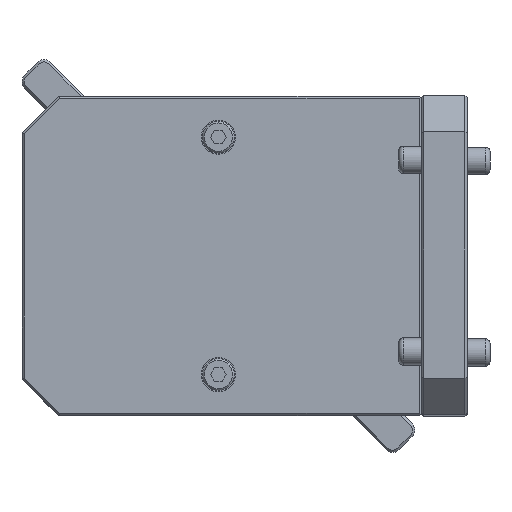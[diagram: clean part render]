
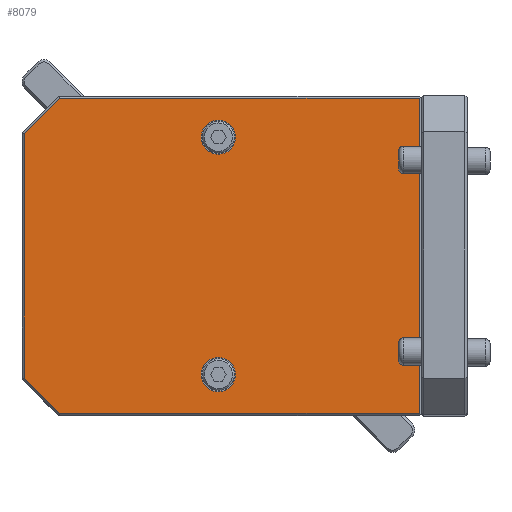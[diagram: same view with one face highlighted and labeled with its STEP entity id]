
A CAD part, top view. The second image highlights one B-rep face of the part: STEP entity #8079.
In plain terms, the highlighted planar face has unit normal (0, 0, 1).
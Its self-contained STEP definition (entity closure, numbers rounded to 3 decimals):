
#4339=PLANE('',#20849);
#5361=LINE('',#29342,#6851);
#5362=LINE('',#29345,#6852);
#5363=LINE('',#29347,#6853);
#5364=LINE('',#29349,#6854);
#5365=LINE('',#29351,#6855);
#5366=LINE('',#29353,#6856);
#6851=VECTOR('',#23988,1.);
#6852=VECTOR('',#23989,1.);
#6853=VECTOR('',#23990,1.);
#6854=VECTOR('',#23991,1.);
#6855=VECTOR('',#23992,1.);
#6856=VECTOR('',#23993,1.);
#8079=ADVANCED_FACE('',(#9237,#9238,#9239),#4339,.T.);
#9237=FACE_BOUND('',#10014,.T.);
#9238=FACE_BOUND('',#10015,.T.);
#9239=FACE_BOUND('',#10016,.T.);
#10014=EDGE_LOOP('',(#12460));
#10015=EDGE_LOOP('',(#12461));
#10016=EDGE_LOOP('',(#12462,#12463,#12464,#12465,#12466,#12467));
#12460=ORIENTED_EDGE('',*,*,#18048,.T.);
#12461=ORIENTED_EDGE('',*,*,#18049,.T.);
#12462=ORIENTED_EDGE('',*,*,#18050,.T.);
#12463=ORIENTED_EDGE('',*,*,#18051,.T.);
#12464=ORIENTED_EDGE('',*,*,#18052,.T.);
#12465=ORIENTED_EDGE('',*,*,#18053,.T.);
#12466=ORIENTED_EDGE('',*,*,#18054,.T.);
#12467=ORIENTED_EDGE('',*,*,#18055,.T.);
#16182=VERTEX_POINT('',#29339);
#16183=VERTEX_POINT('',#29341);
#16184=VERTEX_POINT('',#29343);
#16185=VERTEX_POINT('',#29344);
#16186=VERTEX_POINT('',#29346);
#16187=VERTEX_POINT('',#29348);
#16188=VERTEX_POINT('',#29350);
#16189=VERTEX_POINT('',#29352);
#18048=EDGE_CURVE('',#16182,#16182,#19706,.T.);
#18049=EDGE_CURVE('',#16183,#16183,#19707,.T.);
#18050=EDGE_CURVE('',#16184,#16185,#5361,.T.);
#18051=EDGE_CURVE('',#16185,#16186,#5362,.T.);
#18052=EDGE_CURVE('',#16186,#16187,#5363,.T.);
#18053=EDGE_CURVE('',#16187,#16188,#5364,.T.);
#18054=EDGE_CURVE('',#16188,#16189,#5365,.T.);
#18055=EDGE_CURVE('',#16189,#16184,#5366,.T.);
#19706=CIRCLE('',#20847,3.75);
#19707=CIRCLE('',#20848,3.75);
#20847=AXIS2_PLACEMENT_3D('',#29338,#23984,#23985);
#20848=AXIS2_PLACEMENT_3D('',#29340,#23986,#23987);
#20849=AXIS2_PLACEMENT_3D('',#29354,#23994,#23995);
#23984=DIRECTION('',(0.,0.,-1.));
#23985=DIRECTION('',(-1.,0.,0.));
#23986=DIRECTION('',(0.,0.,-1.));
#23987=DIRECTION('',(-1.,0.,0.));
#23988=DIRECTION('',(1.,0.,0.));
#23989=DIRECTION('',(0.,1.,0.));
#23990=DIRECTION('',(-1.,0.,0.));
#23991=DIRECTION('',(-0.707,-0.707,0.));
#23992=DIRECTION('',(0.,-1.,0.));
#23993=DIRECTION('',(0.707,-0.707,0.));
#23994=DIRECTION('',(0.,0.,1.));
#23995=DIRECTION('',(1.,0.,0.));
#29338=CARTESIAN_POINT('',(27.626,55.731,26.59));
#29339=CARTESIAN_POINT('',(23.876,55.731,26.59));
#29340=CARTESIAN_POINT('',(27.626,3.731,26.59));
#29341=CARTESIAN_POINT('',(23.876,3.731,26.59));
#29342=CARTESIAN_POINT('',(72.126,-4.769,26.59));
#29343=CARTESIAN_POINT('',(-7.167,-4.769,26.59));
#29344=CARTESIAN_POINT('',(71.626,-4.769,26.59));
#29345=CARTESIAN_POINT('',(71.626,64.231,26.59));
#29346=CARTESIAN_POINT('',(71.626,64.231,26.59));
#29347=CARTESIAN_POINT('',(-7.374,64.231,26.59));
#29348=CARTESIAN_POINT('',(-7.167,64.231,26.59));
#29349=CARTESIAN_POINT('',(-46.021,25.378,26.59));
#29350=CARTESIAN_POINT('',(-14.874,56.524,26.59));
#29351=CARTESIAN_POINT('',(-14.874,2.731,26.59));
#29352=CARTESIAN_POINT('',(-14.874,2.939,26.59));
#29353=CARTESIAN_POINT('',(-11.021,-0.915,26.59));
#29354=CARTESIAN_POINT('',(-15.374,-5.269,26.59));
